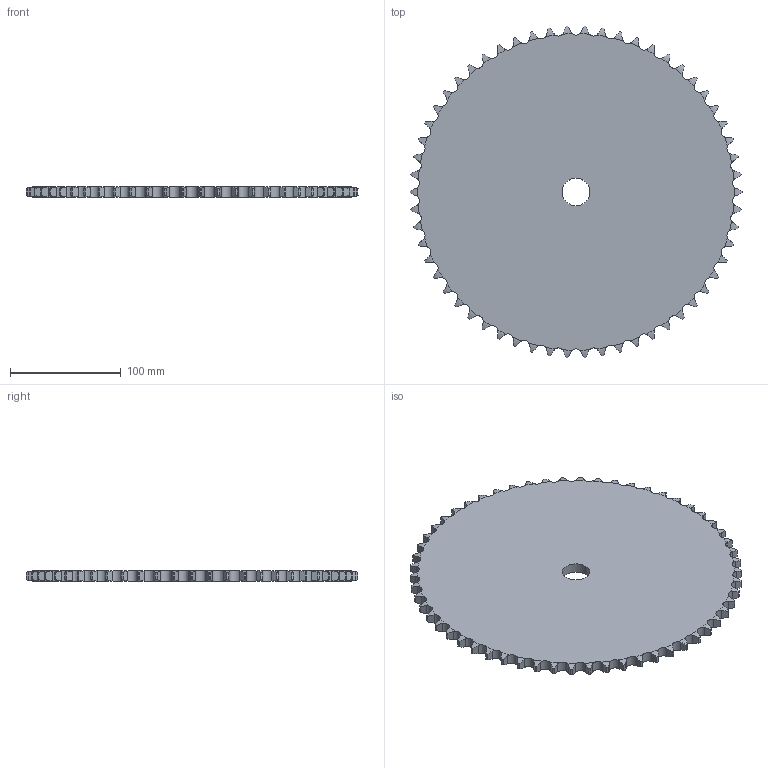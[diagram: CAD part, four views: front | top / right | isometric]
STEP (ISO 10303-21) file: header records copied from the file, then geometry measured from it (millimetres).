
FILE_DESCRIPTION((''),'2;1');
FILE_NAME('500-301-0058_PRT','2021-02-12T',('Brieden'),('Brieden'),'PRO/ENGINEER BY PARAMETRIC TECHNOLOGY CORPORATION, 2010160','PRO/ENGINEER BY PARAMETRIC TECHNOLOGY CORPORATION, 2010160','');
FILE_SCHEMA(('AUTOMOTIVE_DESIGN { 1 0 10303 214 1 1 1 1 }'));
Length unit declared in the file: millimetre
Products named in the file (1): 500-301-0058_PRT
Bounding box: 299.38 x 299.03 x 9.1 mm (x, y, z)
Volume: 591764.5 mm3; surface area: 142989.4 mm2
Topology: 1 solids, 1 shells, 352 faces, 1050 edges, 700 vertices
Faces by surface type: cylinder 234, torus 116, plane 2
Entity records: 17484 total; most frequent: CARTESIAN_POINT 5367, ORIENTED_EDGE 2100, DIRECTION 1642, PRESENTATION_STYLE_ASSIGNMENT 1051, STYLED_ITEM 1051, CURVE_STYLE 1050, EDGE_CURVE 1050, AXIS2_PLACEMENT_3D 704
